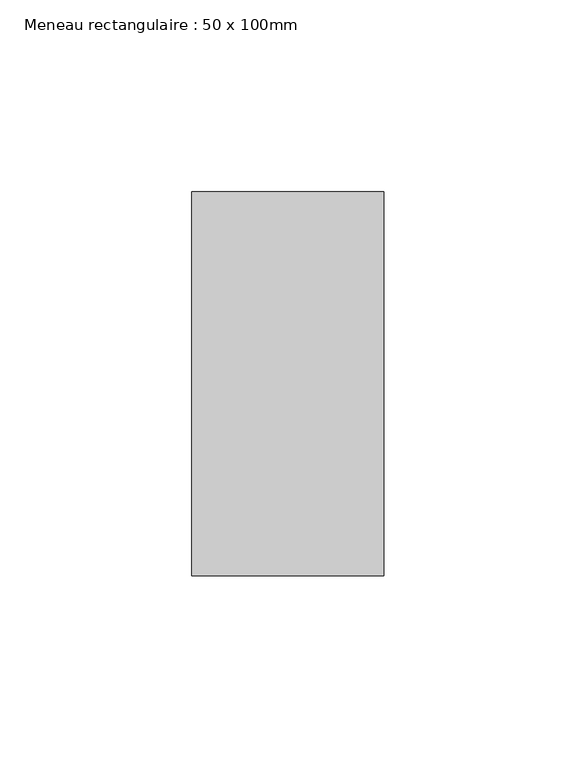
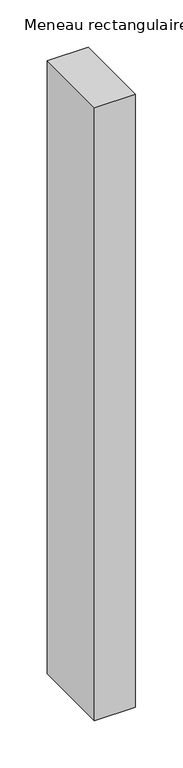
"""IFC4 building model written with IfcOpenShell, lengths in millimetres: member geometry, Meneau rectangulaire : 50 x 100mm."""

from ifc_helpers import new_model, si_unit, frame, origin, place, context, project, spatial, polyline, outline, extrude, source, transform, mapped, element, save


def meneau_rectangulaire_50_x_100mm_34e0b34b(model_context):
    return source(origin(), model_context, "Body", "SweptSolid", [
        extrude(outline(polyline([(25.0, 50.0), (25.0, -50.0), (-25.0, -50.0), (-25.0, 50.0), (25.0, 50.0)])), frame((0.0, 0.0, -792.0971584), z_axis=(0.0, 0.0, 1.0), x_axis=(1.0, 0.0, 0.0)), (0.0, 0.0, 1.0), 792.0971584),
    ])


if __name__ == "__main__":
    model = new_model("IFC4")
    model_context = context("Model", 3, world=origin())
    ifc_project = project(units=[si_unit("LENGTHUNIT", "METRE", prefix="MILLI")], contexts=[model_context])
    site = spatial("IfcSite", under=ifc_project)
    building = spatial("IfcBuilding", under=site)
    placement = place(None, origin())
    meneau_rectangulaire_50_x_100mm_shape = meneau_rectangulaire_50_x_100mm_34e0b34b(model_context)
    element("IfcMember", 1, ObjectType="Meneau rectangulaire : 50 x 100mm", at=placement, inside=building, context=model_context, shape_type="MappedRepresentation", body=[
        mapped(meneau_rectangulaire_50_x_100mm_shape, transform((0.0, 0.0, 0.0), x_axis=(1.0, 0.0, 0.0), y_axis=(0.0, 1.0, 0.0), z_axis=(0.0, 0.0, 1.0))),
    ])
    save(model, "model.ifc")
